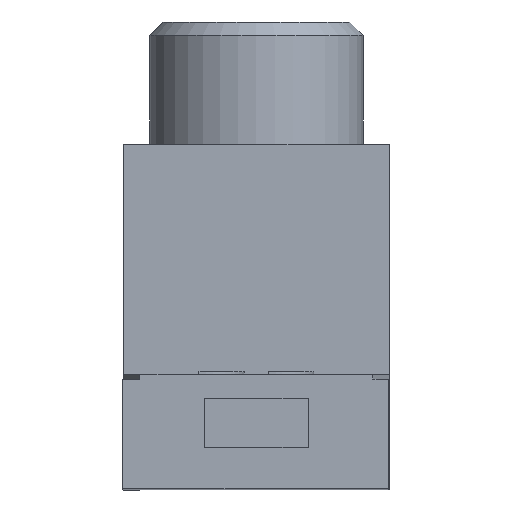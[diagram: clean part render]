
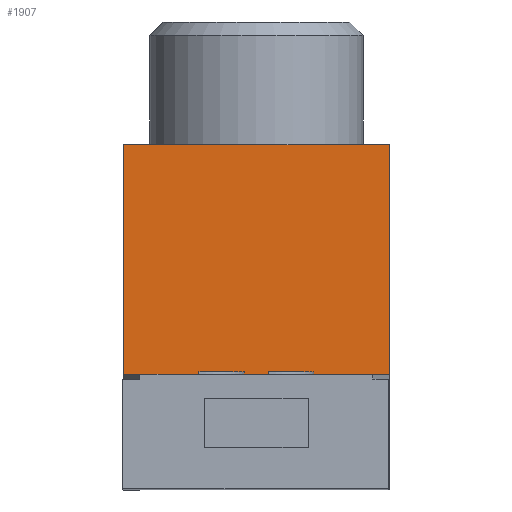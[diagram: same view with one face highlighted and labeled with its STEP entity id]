
A CAD part, top view. The second image highlights one B-rep face of the part: STEP entity #1907.
In plain terms, the highlighted planar face has unit normal (0, 0, 1).
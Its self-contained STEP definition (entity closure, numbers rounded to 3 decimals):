
#602=CARTESIAN_POINT('',(-25.159,9.855,21.03));
#603=VERTEX_POINT('',#602);
#610=CARTESIAN_POINT('',(-25.159,23.857,21.03));
#611=VERTEX_POINT('',#610);
#612=CARTESIAN_POINT('',(-25.159,9.855,21.03));
#613=DIRECTION('',(0.0,1.0,0.0));
#614=VECTOR('',#613,14.002);
#615=LINE('',#612,#614);
#616=EDGE_CURVE('',#603,#611,#615,.T.);
#1367=CARTESIAN_POINT('',(-8.959,9.855,21.03));
#1368=VERTEX_POINT('',#1367);
#1426=CARTESIAN_POINT('',(-8.959,23.857,21.03));
#1427=VERTEX_POINT('',#1426);
#1434=CARTESIAN_POINT('',(-8.959,23.857,21.03));
#1435=DIRECTION('',(0.0,-1.0,0.0));
#1436=VECTOR('',#1435,14.002);
#1437=LINE('',#1434,#1436);
#1438=EDGE_CURVE('',#1427,#1368,#1437,.T.);
#1611=CARTESIAN_POINT('',(-25.159,23.857,21.03));
#1612=DIRECTION('',(1.0,0.0,0.0));
#1613=VECTOR('',#1612,16.2);
#1614=LINE('',#1611,#1613);
#1615=EDGE_CURVE('',#611,#1427,#1614,.T.);
#1875=CARTESIAN_POINT('',(-17.059,16.861,21.03));
#1876=DIRECTION('',(0.0,0.0,1.0));
#1877=DIRECTION('',(1.0,0.0,0.0));
#1878=AXIS2_PLACEMENT_3D('',#1875,#1876,#1877);
#1879=PLANE('',#1878);
#1880=ORIENTED_EDGE('',*,*,#616,.F.);
#1881=CARTESIAN_POINT('',(-25.141,9.857,21.03));
#1882=VERTEX_POINT('',#1881);
#1883=CARTESIAN_POINT('',(-25.141,9.857,21.03));
#1884=DIRECTION('',(-0.997,-0.081,0.0));
#1885=VECTOR('',#1884,0.019);
#1886=LINE('',#1883,#1885);
#1887=EDGE_CURVE('',#1882,#603,#1886,.T.);
#1888=ORIENTED_EDGE('',*,*,#1887,.F.);
#1889=CARTESIAN_POINT('',(-8.978,9.857,21.03));
#1890=VERTEX_POINT('',#1889);
#1891=CARTESIAN_POINT('',(-25.141,9.857,21.03));
#1892=DIRECTION('',(1.0,0.0,0.0));
#1893=VECTOR('',#1892,16.163);
#1894=LINE('',#1891,#1893);
#1895=EDGE_CURVE('',#1882,#1890,#1894,.T.);
#1896=ORIENTED_EDGE('',*,*,#1895,.T.);
#1897=CARTESIAN_POINT('',(-8.978,9.857,21.03));
#1898=DIRECTION('',(0.997,-0.081,0.0));
#1899=VECTOR('',#1898,0.019);
#1900=LINE('',#1897,#1899);
#1901=EDGE_CURVE('',#1890,#1368,#1900,.T.);
#1902=ORIENTED_EDGE('',*,*,#1901,.T.);
#1903=ORIENTED_EDGE('',*,*,#1438,.F.);
#1904=ORIENTED_EDGE('',*,*,#1615,.F.);
#1905=EDGE_LOOP('',(#1880,#1888,#1896,#1902,#1903,#1904));
#1906=FACE_OUTER_BOUND('',#1905,.T.);
#1907=ADVANCED_FACE('',(#1906),#1879,.T.);
